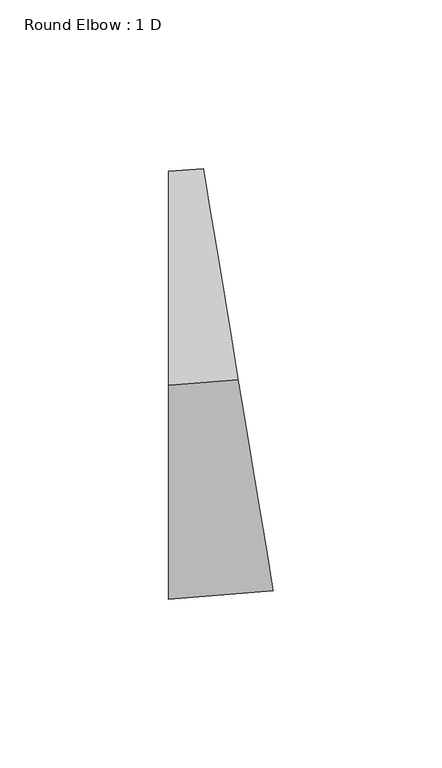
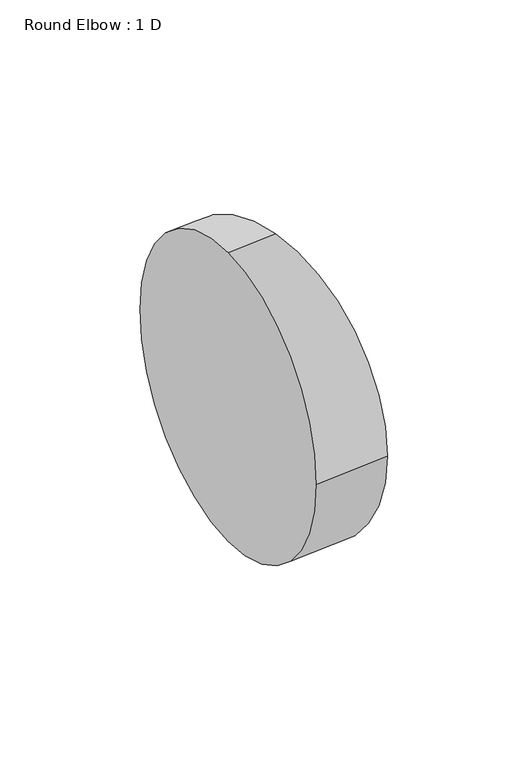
"""IFC4 building model written with IfcOpenShell, lengths in millimetres: duct fitting geometry, Round Elbow : 1 D."""

from ifc_helpers import new_model, si_unit, point, frame, origin, place, context, project, spatial, circle_curve, ellipse_curve, trimmed, source, transform, mapped, element, save
from ifc_brep_helpers import plane_surface, revolved_surface, advanced_brep


def round_elbow_1_d_3b39a11e(model_context):
    return source(origin(), model_context, "Body", "AdvancedBrep", [
        advanced_brep(
        [(-10.4532477, 0.0, 63.5), (-10.4532477, 63.5, 0.0), (-10.4532477, 0.0, -63.5), (-10.4532477, -63.5, 0.0), (10.3125639, 1.709214, 63.5), (20.6954697, -60.9361791, 0.0), (10.3125639, 1.709214, -63.5), (-0.0703419, 64.354607, 0.0)],
        [
            (0, 1, circle_curve(frame((-10.4532477, 0.0, 0.0), z_axis=(-1.0, 0.0, 0.0), x_axis=(0.0, 1.0, 0.0)), 63.5)),
            (1, 2, circle_curve(frame((-10.4532477, 0.0, 0.0), z_axis=(-1.0, 0.0, 0.0), x_axis=(0.0, 1.0, 0.0)), 63.5)),
            (2, 3, circle_curve(frame((-10.4532477, 0.0, 0.0), z_axis=(-1.0, 0.0, 0.0), x_axis=(0.0, 1.0, 0.0)), 63.5)),
            (3, 0, circle_curve(frame((-10.4532477, 0.0, 0.0), z_axis=(-1.0, 0.0, 0.0), x_axis=(0.0, 1.0, 0.0)), 63.5)),
            (4, 5, circle_curve(frame((10.3125639, 1.709214, 0.0), z_axis=(0.9865416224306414, 0.1635103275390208, 0.0), x_axis=(-0.1635103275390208, 0.9865416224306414, 0.0)), 63.5)),
            (5, 6, circle_curve(frame((10.3125639, 1.709214, 0.0), z_axis=(0.9865416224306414, 0.1635103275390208, 0.0), x_axis=(-0.1635103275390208, 0.9865416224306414, 0.0)), 63.5)),
            (6, 7, circle_curve(frame((10.3125639, 1.709214, 0.0), z_axis=(0.9865416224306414, 0.1635103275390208, 0.0), x_axis=(-0.1635103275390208, 0.9865416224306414, 0.0)), 63.5)),
            (7, 4, circle_curve(frame((10.3125639, 1.709214, 0.0), z_axis=(0.9865416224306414, 0.1635103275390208, 0.0), x_axis=(-0.1635103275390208, 0.9865416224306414, 0.0)), 63.5)),
            (7, 1, circle_curve(frame((-10.4532477, 127.0, 0.0), z_axis=(0.0, 0.0, -1.0), x_axis=(0.0, -1.0, 0.0)), 63.5)),
            (0, 4, circle_curve(frame((-10.4532477, 127.0, 63.5), z_axis=(0.0, 0.0, 1.0), x_axis=(0.0, -1.0, 0.0)), 127.0)),
            (6, 2, circle_curve(frame((-10.4532477, 127.0, -63.5), z_axis=(0.0, 0.0, -1.0), x_axis=(0.0, -1.0, 0.0)), 127.0)),
            (5, 3, circle_curve(frame((-10.4532477, 127.0, 0.0), z_axis=(0.0, 0.0, -1.0), x_axis=(0.0, -1.0, 0.0)), 190.5)),
        ],
        [
            plane_surface(frame((-10.4532477, 0.0, 0.0), z_axis=(-1.0, 0.0, 0.0), x_axis=(0.0, 0.0, 1.0))),
            plane_surface(frame((10.3125639, 1.709214, 0.0), z_axis=(0.9865416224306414, 0.16351032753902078, 0.0), x_axis=(0.0, 0.0, 1.0))),
            revolved_surface(trimmed(ellipse_curve(frame((-10.4532477, 0.0, 0.0), z_axis=(-1.0, 0.0, 0.0), x_axis=(0.0, 1.0, 0.0)), 63.5, 63.5), [point((-10.4532477, 0.0, 63.5))], [point((-10.4532477, 63.5, 0.0))], True, "CARTESIAN"), (-10.4532477, 127.0, 0.0), (0.0, 0.0, 1.0)),
            revolved_surface(trimmed(ellipse_curve(frame((-10.4532477, 0.0, 0.0), z_axis=(-1.0, 0.0, 0.0), x_axis=(0.0, 1.0, 0.0)), 63.5, 63.5), [point((-10.4532477, 63.5, 0.0))], [point((-10.4532477, 0.0, -63.5))], True, "CARTESIAN"), (-10.4532477, 127.0, 0.0), (0.0, 0.0, 1.0)),
            revolved_surface(trimmed(ellipse_curve(frame((-10.4532477, 0.0, 0.0), z_axis=(-1.0, 0.0, 0.0), x_axis=(0.0, 1.0, 0.0)), 63.5, 63.5), [point((-10.4532477, 0.0, -63.5))], [point((-10.4532477, -63.5, 0.0))], True, "CARTESIAN"), (-10.4532477, 127.0, 0.0), (0.0, 0.0, 1.0)),
            revolved_surface(trimmed(ellipse_curve(frame((-10.4532477, 0.0, 0.0), z_axis=(-1.0, 0.0, 0.0), x_axis=(0.0, 1.0, 0.0)), 63.5, 63.5), [point((-10.4532477, -63.5, 0.0))], [point((-10.4532477, 0.0, 63.5))], True, "CARTESIAN"), (-10.4532477, 127.0, 0.0), (0.0, 0.0, 1.0)),
        ],
        [
            (0, [[1, 2, 3, 4]]),
            (1, [[5, 6, 7, 8]]),
            (2, [[9, -1, 10, -8]]),
            (3, [[11, -2, -9, -7]]),
            (4, [[12, -3, -11, -6]]),
            (5, [[-10, -4, -12, -5]]),
        ],
    ),
    ])


if __name__ == "__main__":
    model = new_model("IFC4")
    model_context = context("Model", 3, world=origin())
    ifc_project = project(units=[si_unit("LENGTHUNIT", "METRE", prefix="MILLI")], contexts=[model_context])
    site = spatial("IfcSite", under=ifc_project)
    building = spatial("IfcBuilding", under=site)
    placement = place(None, origin())
    round_elbow_1_d_shape = round_elbow_1_d_3b39a11e(model_context)
    element("IfcDuctFitting", 1, ObjectType="Round Elbow : 1 D", at=placement, inside=building, context=model_context, shape_type="MappedRepresentation", body=[
        mapped(round_elbow_1_d_shape, transform((0.0, 0.0, 0.0), x_axis=(1.0, 0.0, 0.0), y_axis=(0.0, 1.0, 0.0), z_axis=(0.0, 0.0, 1.0))),
    ])
    save(model, "model.ifc")
